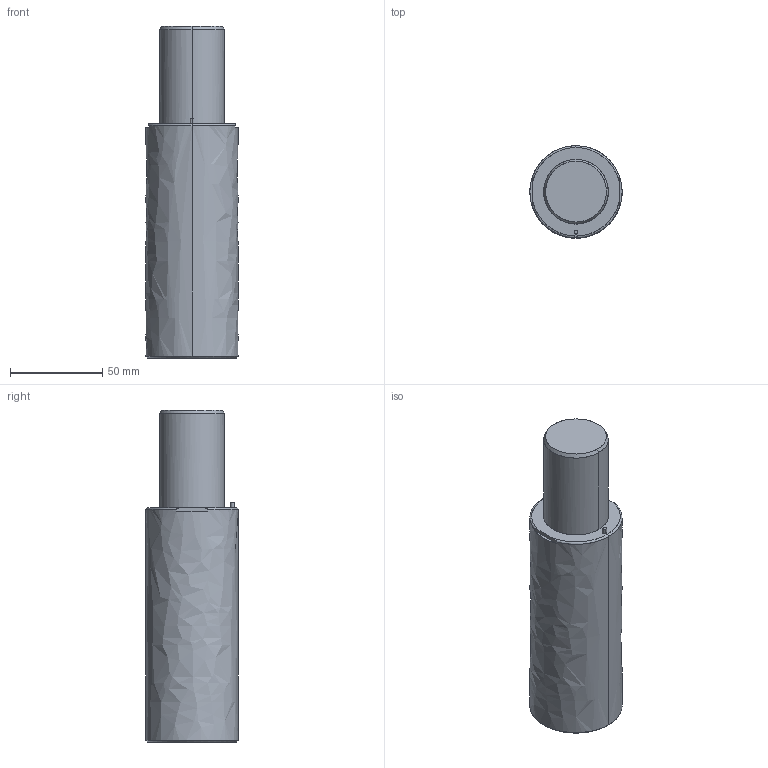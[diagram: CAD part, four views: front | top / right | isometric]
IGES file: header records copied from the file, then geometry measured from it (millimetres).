
Global section: file name: E:\UnigraphicsGraphicData\MISUMI_PRESS-PARTS\IGES\3d_gsx50-50_03961_r00.igs; native system: NX V5.0; preprocessor: UGS NX IGES V5.0; author: MISUMI; date: 20110105.160828; units: millimetre
Bounding box: 50 x 50 x 180 mm (x, y, z)
Surface area: 31172.4 mm2 (no closed solid volume)
Topology: 0 solids, 0 shells, 59 faces, 428 edges, 420 vertices
Faces by surface type: bspline 59
